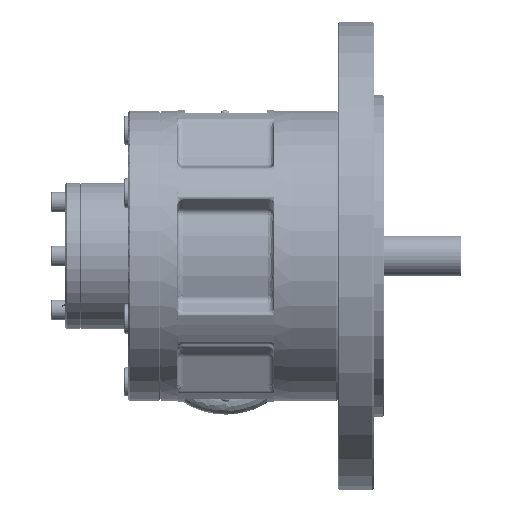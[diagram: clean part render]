
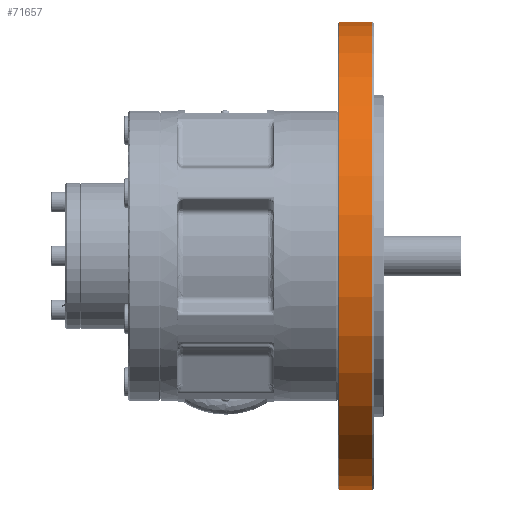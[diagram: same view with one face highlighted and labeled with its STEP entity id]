
A CAD part, front view. The second image highlights one B-rep face of the part: STEP entity #71657.
In plain terms, the highlighted cylindrical face has radius 80 mm (diameter 160 mm), a partial arc.
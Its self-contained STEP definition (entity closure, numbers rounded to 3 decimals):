
#7834 = CARTESIAN_POINT ( 'NONE',  ( 36.3, 3.97, 0. ) ) ;
#16872 = LINE ( 'NONE', #126329, #89284 ) ;
#18716 = EDGE_CURVE ( 'NONE', #77428, #168506, #31406, .T. ) ;
#21582 = ORIENTED_EDGE ( 'NONE', *, *, #18716, .F. ) ;
#24215 = EDGE_CURVE ( 'NONE', #91858, #168506, #66362, .T. ) ;
#26548 = DIRECTION ( 'NONE',  ( 0., 0., 1. ) ) ;
#30920 = EDGE_CURVE ( 'NONE', #79298, #77428, #16872, .T. ) ;
#31236 = VECTOR ( 'NONE', #68953, 1000. ) ;
#31406 = CIRCLE ( 'NONE', #35568, 80. ) ;
#34509 = CARTESIAN_POINT ( 'NONE',  ( 50.1, 3.97, -80. ) ) ;
#35568 = AXIS2_PLACEMENT_3D ( 'NONE', #106025, #107400, #26548 ) ;
#36627 = CARTESIAN_POINT ( 'NONE',  ( 38.8, 3.97, 80. ) ) ;
#43252 = DIRECTION ( 'NONE',  ( -1., 0., 0. ) ) ;
#54985 = CARTESIAN_POINT ( 'NONE',  ( 36.3, 3.97, 80. ) ) ;
#63125 = CIRCLE ( 'NONE', #195981, 80. ) ;
#66362 = LINE ( 'NONE', #54985, #31236 ) ;
#68953 = DIRECTION ( 'NONE',  ( -1., 0., 0. ) ) ;
#71657 = ADVANCED_FACE ( 'NONE', ( #166768 ), #204173, .T. ) ;
#77428 = VERTEX_POINT ( 'NONE', #194829 ) ;
#79298 = VERTEX_POINT ( 'NONE', #34509 ) ;
#89284 = VECTOR ( 'NONE', #97104, 1000. ) ;
#91858 = VERTEX_POINT ( 'NONE', #177661 ) ;
#94854 = EDGE_LOOP ( 'NONE', ( #130757, #161697, #120917, #21582 ) ) ;
#97104 = DIRECTION ( 'NONE',  ( -1., 0., 0. ) ) ;
#106025 = CARTESIAN_POINT ( 'NONE',  ( 38.8, 3.97, 0. ) ) ;
#107400 = DIRECTION ( 'NONE',  ( -1., 0., 0. ) ) ;
#114333 = EDGE_CURVE ( 'NONE', #79298, #91858, #63125, .T. ) ;
#120917 = ORIENTED_EDGE ( 'NONE', *, *, #24215, .T. ) ;
#126329 = CARTESIAN_POINT ( 'NONE',  ( 36.3, 3.97, -80. ) ) ;
#130757 = ORIENTED_EDGE ( 'NONE', *, *, #30920, .F. ) ;
#136741 = DIRECTION ( 'NONE',  ( 0., 0., 1. ) ) ;
#152754 = DIRECTION ( 'NONE',  ( -1., 0., 0. ) ) ;
#161697 = ORIENTED_EDGE ( 'NONE', *, *, #114333, .T. ) ;
#166768 = FACE_OUTER_BOUND ( 'NONE', #94854, .T. ) ;
#168506 = VERTEX_POINT ( 'NONE', #36627 ) ;
#173530 = CARTESIAN_POINT ( 'NONE',  ( 50.1, 3.97, 0. ) ) ;
#174129 = AXIS2_PLACEMENT_3D ( 'NONE', #7834, #152754, #136741 ) ;
#177661 = CARTESIAN_POINT ( 'NONE',  ( 50.1, 3.97, 80. ) ) ;
#194829 = CARTESIAN_POINT ( 'NONE',  ( 38.8, 3.97, -80. ) ) ;
#195981 = AXIS2_PLACEMENT_3D ( 'NONE', #173530, #43252, #204262 ) ;
#204173 = CYLINDRICAL_SURFACE ( 'NONE', #174129, 80. ) ;
#204262 = DIRECTION ( 'NONE',  ( 0., 0., 1. ) ) ;
